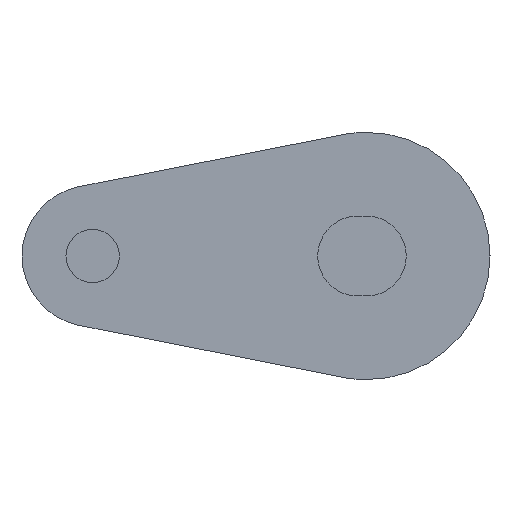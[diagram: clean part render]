
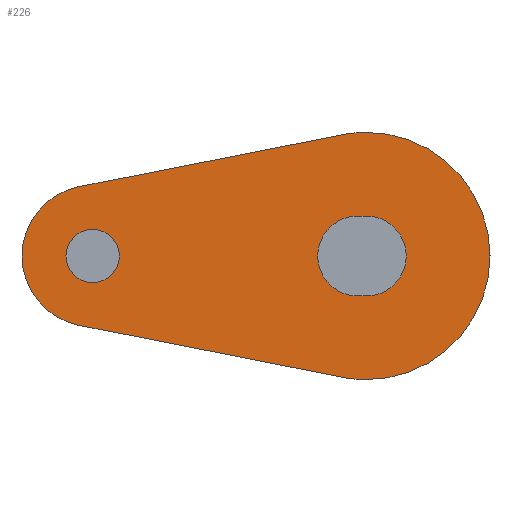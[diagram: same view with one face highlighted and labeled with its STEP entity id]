
A CAD part, left-side view. The second image highlights one B-rep face of the part: STEP entity #226.
In plain terms, the highlighted planar face has unit normal (-1, 0, 0).
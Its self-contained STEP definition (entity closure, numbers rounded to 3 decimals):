
#1 = ORIENTED_EDGE ( 'NONE', *, *, #247, .T. ) ;
#2 = ORIENTED_EDGE ( 'NONE', *, *, #362, .T. ) ;
#12 = ORIENTED_EDGE ( 'NONE', *, *, #305, .T. ) ;
#13 = ORIENTED_EDGE ( 'NONE', *, *, #272, .T. ) ;
#14 = ORIENTED_EDGE ( 'NONE', *, *, #271, .T. ) ;
#36 = ORIENTED_EDGE ( 'NONE', *, *, #316, .T. ) ;
#84 = DIRECTION ( 'NONE',  ( 0., 0., -1. ) ) ;
#85 = DIRECTION ( 'NONE',  ( 1., 0., 0. ) ) ;
#110 = DIRECTION ( 'NONE',  ( 0., 0., -1. ) ) ;
#112 = DIRECTION ( 'NONE',  ( 1., 0., 0. ) ) ;
#114 = CARTESIAN_POINT ( 'NONE',  ( -382.5, 0., 0. ) ) ;
#115 = CARTESIAN_POINT ( 'NONE',  ( -382.5, 0., 0. ) ) ;
#120 = CARTESIAN_POINT ( 'NONE',  ( -382.5, 16.274, 3.924 ) ) ;
#121 = CARTESIAN_POINT ( 'NONE',  ( -382.5, 0.5, 2.26 ) ) ;
#122 = CARTESIAN_POINT ( 'NONE',  ( -382.5, 0., -2.26 ) ) ;
#123 = CARTESIAN_POINT ( 'NONE',  ( -382.5, 0., 2.26 ) ) ;
#129 = CARTESIAN_POINT ( 'NONE',  ( -382.5, 0., -7. ) ) ;
#136 = CARTESIAN_POINT ( 'NONE',  ( -382.5, 1.355, 6.868 ) ) ;
#158 = CARTESIAN_POINT ( 'NONE',  ( -382.5, 16.274, -3.924 ) ) ;
#162 = CARTESIAN_POINT ( 'NONE',  ( -382.5, 15.5, -1.51 ) ) ;
#164 = CARTESIAN_POINT ( 'NONE',  ( -382.5, 0., 7. ) ) ;
#165 = CARTESIAN_POINT ( 'NONE',  ( -382.5, 0.5, -2.26 ) ) ;
#168 = CARTESIAN_POINT ( 'NONE',  ( -382.5, 15.5, 1.51 ) ) ;
#170 = DIRECTION ( 'NONE',  ( 0., 0., -1. ) ) ;
#172 = CARTESIAN_POINT ( 'NONE',  ( -382.5, 1.355, -6.868 ) ) ;
#174 = DIRECTION ( 'NONE',  ( 1., 0., 0. ) ) ;
#184 = DIRECTION ( 'NONE',  ( 0., -0.981, 0.194 ) ) ;
#185 = CARTESIAN_POINT ( 'NONE',  ( -382.5, 15.5, 0. ) ) ;
#226 = ADVANCED_FACE ( 'NONE', ( #723, #721, #719 ), #673, .T. ) ;
#247 = EDGE_CURVE ( 'NONE', #696, #694, #894, .T. ) ;
#270 = EDGE_CURVE ( 'NONE', #689, #493, #876, .T. ) ;
#271 = EDGE_CURVE ( 'NONE', #563, #532, #875, .T. ) ;
#272 = EDGE_CURVE ( 'NONE', #532, #563, #873, .T. ) ;
#278 = AXIS2_PLACEMENT_3D ( 'NONE', #517, #516, #515 ) ;
#298 = AXIS2_PLACEMENT_3D ( 'NONE', #528, #526, #524 ) ;
#305 = EDGE_CURVE ( 'NONE', #695, #559, #849, .T. ) ;
#316 = EDGE_CURVE ( 'NONE', #559, #696, #840, .T. ) ;
#322 = AXIS2_PLACEMENT_3D ( 'NONE', #114, #85, #84 ) ;
#328 = AXIS2_PLACEMENT_3D ( 'NONE', #115, #112, #110 ) ;
#330 = EDGE_CURVE ( 'NONE', #493, #578, #829, .T. ) ;
#331 = EDGE_CURVE ( 'NONE', #684, #562, #824, .T. ) ;
#336 = EDGE_CURVE ( 'NONE', #697, #684, #819, .T. ) ;
#342 = AXIS2_PLACEMENT_3D ( 'NONE', #431, #429, #428 ) ;
#352 = AXIS2_PLACEMENT_3D ( 'NONE', #522, #519, #518 ) ;
#353 = EDGE_CURVE ( 'NONE', #578, #697, #801, .T. ) ;
#362 = EDGE_CURVE ( 'NONE', #694, #695, #792, .T. ) ;
#374 = EDGE_CURVE ( 'NONE', #562, #689, #784, .T. ) ;
#405 = AXIS2_PLACEMENT_3D ( 'NONE', #669, #668, #667 ) ;
#406 = AXIS2_PLACEMENT_3D ( 'NONE', #462, #461, #460 ) ;
#407 = AXIS2_PLACEMENT_3D ( 'NONE', #185, #174, #170 ) ;
#417 = CARTESIAN_POINT ( 'NONE',  ( -382.5, 16.274, 3.924 ) ) ;
#428 = DIRECTION ( 'NONE',  ( 0., 0., -1. ) ) ;
#429 = DIRECTION ( 'NONE',  ( 1., 0., 0. ) ) ;
#431 = CARTESIAN_POINT ( 'NONE',  ( -382.5, 0., 0. ) ) ;
#432 = DIRECTION ( 'NONE',  ( 0., 0.981, 0.194 ) ) ;
#445 = CARTESIAN_POINT ( 'NONE',  ( -382.5, 1.355, -6.868 ) ) ;
#460 = DIRECTION ( 'NONE',  ( 0., 0., -1. ) ) ;
#461 = DIRECTION ( 'NONE',  ( 1., 0., 0. ) ) ;
#462 = CARTESIAN_POINT ( 'NONE',  ( -382.5, 0.5, 0. ) ) ;
#469 = DIRECTION ( 'NONE',  ( 0., 1., 0. ) ) ;
#470 = CARTESIAN_POINT ( 'NONE',  ( -382.5, 0.5, -2.26 ) ) ;
#493 = VERTEX_POINT ( 'NONE', #172 ) ;
#515 = DIRECTION ( 'NONE',  ( 0., 0., -1. ) ) ;
#516 = DIRECTION ( 'NONE',  ( 1., 0., 0. ) ) ;
#517 = CARTESIAN_POINT ( 'NONE',  ( -382.5, 15.5, 0. ) ) ;
#518 = DIRECTION ( 'NONE',  ( 0., 0., -1. ) ) ;
#519 = DIRECTION ( 'NONE',  ( 1., 0., 0. ) ) ;
#522 = CARTESIAN_POINT ( 'NONE',  ( -382.5, 15.5, 0. ) ) ;
#524 = DIRECTION ( 'NONE',  ( 0., 0., -1. ) ) ;
#526 = DIRECTION ( 'NONE',  ( 1., 0., 0. ) ) ;
#528 = CARTESIAN_POINT ( 'NONE',  ( -382.5, 0., 0. ) ) ;
#532 = VERTEX_POINT ( 'NONE', #168 ) ;
#559 = VERTEX_POINT ( 'NONE', #165 ) ;
#562 = VERTEX_POINT ( 'NONE', #164 ) ;
#563 = VERTEX_POINT ( 'NONE', #162 ) ;
#564 = DIRECTION ( 'NONE',  ( 0., -1., 0. ) ) ;
#578 = VERTEX_POINT ( 'NONE', #158 ) ;
#586 = CARTESIAN_POINT ( 'NONE',  ( -382.5, 0.5, 2.26 ) ) ;
#667 = DIRECTION ( 'NONE',  ( 0., 0., -1. ) ) ;
#668 = DIRECTION ( 'NONE',  ( -1., 0., 0. ) ) ;
#669 = CARTESIAN_POINT ( 'NONE',  ( -382.5, 15.5, 0. ) ) ;
#673 = PLANE ( 'NONE',  #405 ) ;
#684 = VERTEX_POINT ( 'NONE', #136 ) ;
#689 = VERTEX_POINT ( 'NONE', #129 ) ;
#694 = VERTEX_POINT ( 'NONE', #123 ) ;
#695 = VERTEX_POINT ( 'NONE', #122 ) ;
#696 = VERTEX_POINT ( 'NONE', #121 ) ;
#697 = VERTEX_POINT ( 'NONE', #120 ) ;
#719 = FACE_OUTER_BOUND ( 'NONE', #990, .T. ) ;
#721 = FACE_BOUND ( 'NONE', #932, .T. ) ;
#723 = FACE_BOUND ( 'NONE', #933, .T. ) ;
#784 = CIRCLE ( 'NONE', #322, 7. ) ;
#792 = CIRCLE ( 'NONE', #328, 2.26 ) ;
#801 = CIRCLE ( 'NONE', #407, 4. ) ;
#818 = VECTOR ( 'NONE', #184, 1000. ) ;
#819 = LINE ( 'NONE', #417, #818 ) ;
#824 = CIRCLE ( 'NONE', #342, 7. ) ;
#829 = LINE ( 'NONE', #445, #835 ) ;
#835 = VECTOR ( 'NONE', #432, 1000. ) ;
#840 = CIRCLE ( 'NONE', #406, 2.26 ) ;
#847 = VECTOR ( 'NONE', #469, 1000. ) ;
#849 = LINE ( 'NONE', #470, #847 ) ;
#873 = CIRCLE ( 'NONE', #278, 1.51 ) ;
#875 = CIRCLE ( 'NONE', #352, 1.51 ) ;
#876 = CIRCLE ( 'NONE', #298, 7. ) ;
#894 = LINE ( 'NONE', #586, #896 ) ;
#896 = VECTOR ( 'NONE', #564, 1000. ) ;
#909 = ORIENTED_EDGE ( 'NONE', *, *, #336, .F. ) ;
#910 = ORIENTED_EDGE ( 'NONE', *, *, #270, .F. ) ;
#911 = ORIENTED_EDGE ( 'NONE', *, *, #331, .F. ) ;
#919 = ORIENTED_EDGE ( 'NONE', *, *, #374, .F. ) ;
#920 = ORIENTED_EDGE ( 'NONE', *, *, #330, .F. ) ;
#932 = EDGE_LOOP ( 'NONE', ( #14, #13 ) ) ;
#933 = EDGE_LOOP ( 'NONE', ( #36, #1, #2, #12 ) ) ;
#946 = ORIENTED_EDGE ( 'NONE', *, *, #353, .F. ) ;
#990 = EDGE_LOOP ( 'NONE', ( #946, #920, #910, #919, #911, #909 ) ) ;
